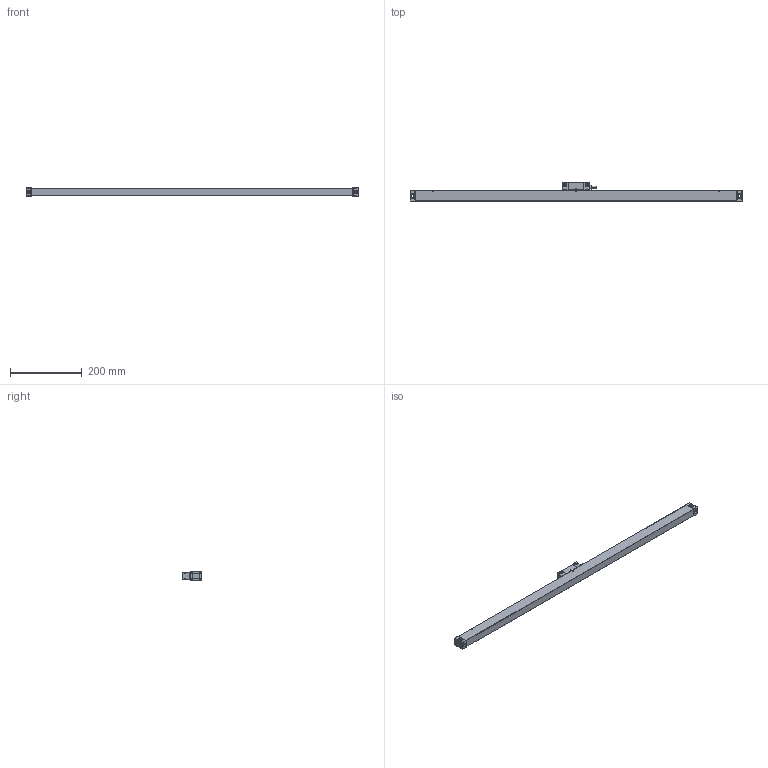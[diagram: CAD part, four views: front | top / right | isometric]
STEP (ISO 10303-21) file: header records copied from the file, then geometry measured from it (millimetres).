
FILE_DESCRIPTION (( 'STEP AP214' ), '1' );
FILE_NAME ('JCXE800-W5.step', '2023-05-18T05:39:12', ( 'Windows 蚚誧' ), ( '' ), 'SwSTEP 2.0', 'SolidWorks 2016', '' );
FILE_SCHEMA (( 'AUTOMOTIVE_DESIGN' ));
Length unit declared in the file: millimetre
Products named in the file (1): JCXE800-W5
Bounding box: 928 x 52.5 x 23.5 mm (x, y, z)
Volume: 624007.5 mm3; surface area: 113361.7 mm2
Topology: 2 solids, 2 shells, 307 faces, 756 edges, 466 vertices
Faces by surface type: cylinder 138, plane 134, torus 22, sphere 11, cone 2
Entity records: 9260 total; most frequent: CARTESIAN_POINT 1860, DIRECTION 1588, ORIENTED_EDGE 1486, EDGE_CURVE 743, AXIS2_PLACEMENT_3D 596, VERTEX_POINT 464, LINE 396, VECTOR 396
